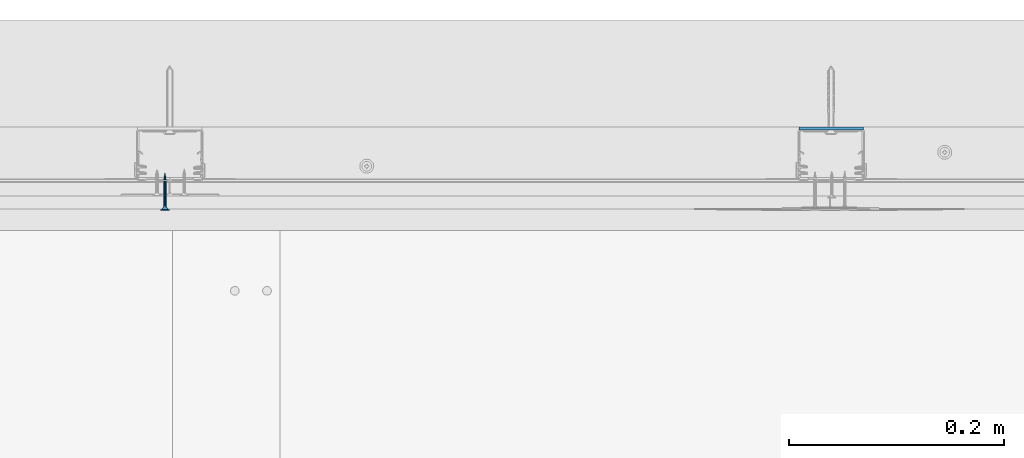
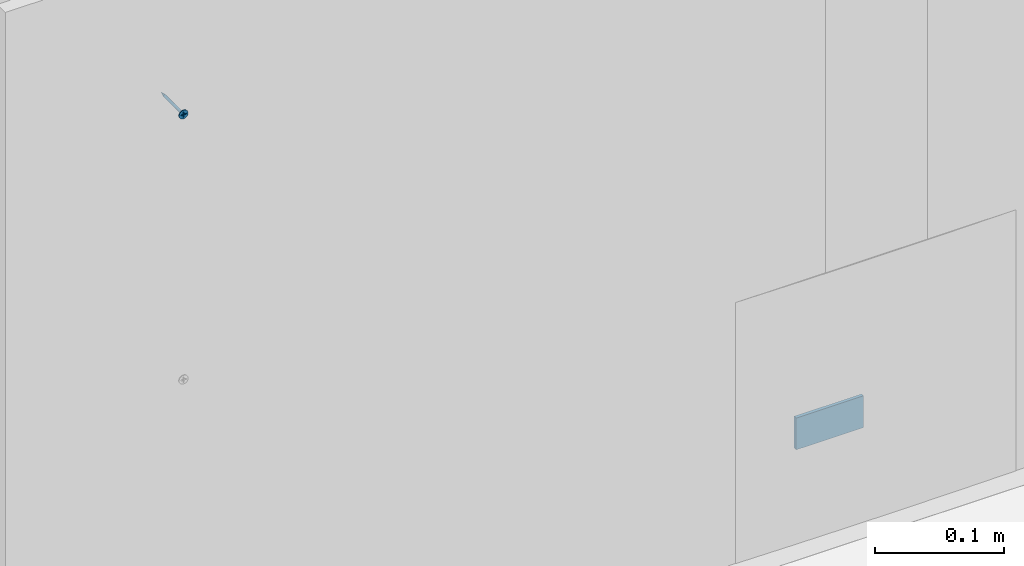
# One storey, part 35 of 47: 2 walls.
"""IFC2X3 building model written with IfcOpenShell, lengths in millimetres."""

import ifcopenshell
import ifcopenshell.guid

model = None  # the IFC model being written
_history = None  # IfcOwnerHistory: only IFC2X3 demands one
_inside = {}  # id of a spatial element -> (the spatial element, [elements in it])
_under = {}  # id of a project, library or spatial element -> (it, [spatial elements below it])
_declared = {}  # id of a project -> (the project, [libraries it declares])
_typed = {}  # id of a type object -> (the type object, [elements of that type])
_made_of = {}  # id of a material, layer set ... -> (it, [elements and type objects made of it])


def new_model(schema):
    """Start an empty IFC model of exactly this schema.

    Asked for "IFC4X3", IfcOpenShell would pick the latest addendum, in which some entities
    have other attributes; the version numbers below select the first issue.
    IFC2X3 requires an IfcOwnerHistory on every rooted entity: one is made here for all.
    """
    global model, _history
    if schema == "IFC4X3":
        model = ifcopenshell.file(schema_version=(4, 3, 0, 0))
    else:
        model = ifcopenshell.file(schema=schema)
    _inside.clear()
    _under.clear()
    _declared.clear()
    _typed.clear()
    _made_of.clear()
    _history = None
    if model.schema == "IFC2X3":
        org = make("IfcOrganization", Name="unknown")
        user = make(
            "IfcPersonAndOrganization",
            ThePerson=make("IfcPerson", FamilyName="unknown"),
            TheOrganization=org,
        )
        app = make(
            "IfcApplication",
            ApplicationDeveloper=org,
            Version="unknown",
            ApplicationFullName="unknown",
            ApplicationIdentifier="unknown",
        )
        _history = make(
            "IfcOwnerHistory",
            OwningUser=user,
            OwningApplication=app,
            ChangeAction="ADDED",
            CreationDate=0,
        )
    return model


def make(cls, **values):
    """One entity of the class cls with the attributes given. An attribute that is None is left unset."""
    return model.create_entity(
        cls, **{name: value for name, value in values.items() if value is not None}
    )


def entity(cls, *values):
    """Any entity or typed value of the class cls, its attributes in the order of the schema. None: left unset."""
    e = model.create_entity(cls)
    for i, value in enumerate(values):
        if value is not None:
            e[i] = value
    return e


def rooted(cls, **values):
    """An entity with a GlobalId (a new one), such as an element, a storey or a relation."""
    return make(cls, GlobalId=ifcopenshell.guid.new(), OwnerHistory=_history, **values)


def si_unit(unit_type, name, prefix=None):
    """IfcSIUnit, for example si_unit("LENGTHUNIT", "METRE", prefix="MILLI")."""
    return make("IfcSIUnit", UnitType=unit_type, Prefix=prefix, Name=name)


def converted_unit(unit_type, name, factor, base, dimensions=None, offset=None):
    """IfcConversionBasedUnit, such as the inch: factor (a typed value) times the base unit."""
    return make(
        "IfcConversionBasedUnit"
        if offset is None
        else "IfcConversionBasedUnitWithOffset",
        ConversionOffset=offset,
        Dimensions=None
        if dimensions is None
        else entity("IfcDimensionalExponents", *dimensions),
        UnitType=unit_type,
        Name=name,
        ConversionFactor=make(
            "IfcMeasureWithUnit", ValueComponent=factor, UnitComponent=base
        ),
    )


def assignment(units):
    """IfcUnitAssignment: the units of a project."""
    return None if units is None else make("IfcUnitAssignment", Units=units)


def point(xyz):
    """IfcCartesianPoint."""
    return None if xyz is None else make("IfcCartesianPoint", Coordinates=xyz)


def direction(xyz):
    """IfcDirection."""
    return None if xyz is None else make("IfcDirection", DirectionRatios=xyz)


def frame(location, z_axis=None, x_axis=None):
    """IfcAxis2Placement3D, a coordinate frame: its origin and axes. An axis left out is left unset."""
    return make(
        "IfcAxis2Placement3D",
        Location=point(location),
        Axis=direction(z_axis),
        RefDirection=direction(x_axis),
    )


def origin():
    """The frame at (0, 0, 0) with its axes left unset."""
    return frame((0.0, 0.0, 0.0))


def origin_with_axes():
    """The frame at (0, 0, 0) with the z axis (0, 0, 1) and the x axis (1, 0, 0) written out."""
    return frame((0.0, 0.0, 0.0), z_axis=(0.0, 0.0, 1.0), x_axis=(1.0, 0.0, 0.0))


def place(relative_to, where):
    """IfcLocalPlacement: puts the frame where relative to a parent placement (None: the world)."""
    return make(
        "IfcLocalPlacement", PlacementRelTo=relative_to, RelativePlacement=where
    )


def context(
    kind, dimensions, precision=None, world=None, true_north=None, identifier=None
):
    """IfcGeometricRepresentationContext, for example the 3D "Model" context."""
    return make(
        "IfcGeometricRepresentationContext",
        ContextIdentifier=identifier,
        ContextType=kind,
        CoordinateSpaceDimension=dimensions,
        Precision=precision,
        WorldCoordinateSystem=world,
        TrueNorth=true_north,
    )


def project(units=None, contexts=None):
    """IfcProject with its units and contexts."""
    return rooted(
        "IfcProject",
        Name="project",
        RepresentationContexts=contexts,
        UnitsInContext=assignment(units),
    )


def spatial(cls, under=None, at=None, **own):
    """A site, building, storey or space (cls), placed at a placement, below another one or the project."""
    s = rooted(cls, ObjectPlacement=at, **own)
    if under is not None:
        _under.setdefault(under.id(), (under, []))[1].append(s)
    return s


def faces_of(points, faces, orient=None, outer=None):
    """IfcFace entities. A face is a list of loops; a loop is a list of indices into points, from 0.

    orient and outer hold one flag for each loop. By default every Orientation is true, the
    first loop of a face is its IfcFaceOuterBound and the others are IfcFaceBound.
    """
    made = []
    for i, loops in enumerate(faces):
        bounds = []
        for j, loop in enumerate(loops):
            is_outer = j == 0 if outer is None else outer[i][j]
            bounds.append(
                make(
                    "IfcFaceOuterBound" if is_outer else "IfcFaceBound",
                    Bound=make("IfcPolyLoop", Polygon=[points[k] for k in loop]),
                    Orientation=True if orient is None else orient[i][j],
                )
            )
        made.append(make("IfcFace", Bounds=bounds))
    return made


def faceted_brep(points, faces, orient=None, outer=None, voids=None):
    """IfcFacetedBrep: a solid bounded by flat faces; with voids (closed shells), ...WithVoids."""
    shared = [point(p) for p in points]
    hull = make("IfcClosedShell", CfsFaces=faces_of(shared, faces, orient, outer))
    if voids is None:
        return make("IfcFacetedBrep", Outer=hull)
    return make(
        "IfcFacetedBrepWithVoids",
        Outer=hull,
        Voids=[
            make(cls, CfsFaces=faces_of(shared, fs, o, b)) for cls, fs, o, b in voids
        ],
    )


def shape(context_of_items, identifier, shape_type, items):
    """IfcShapeRepresentation: the items that make up one representation, for example the "Body"."""
    return make(
        "IfcShapeRepresentation",
        ContextOfItems=context_of_items,
        RepresentationIdentifier=identifier,
        RepresentationType=shape_type,
        Items=items,
    )


def made_of(thing, what):
    """Note that an element or type object is made of a material, layer set ...; save() writes the relation."""
    if what is not None:
        _made_of.setdefault(what.id(), (what, []))[1].append(thing)
    return thing


def element(
    cls,
    number,
    at=None,
    inside=None,
    cuts=None,
    type_object=None,
    material=None,
    context=None,
    identifier="Body",
    shape_type=None,
    held_by="IfcProductDefinitionShape",
    body=None,
    shapes=None,
    **own,
):
    """One element of the class cls, such as IfcWall. Its Tag is "e" and its number.

    at: its placement. inside: the storey or other place that contains it. cuts: it is an
    opening in that element (IfcRelVoidsElement). A single representation is given by context,
    identifier, shape_type and body (its items); several are given by shapes. held_by: the class
    of the entity that holds the representations. save() writes the other relations.
    """
    e = rooted(cls, Tag="e%d" % number, ObjectPlacement=at, **own)
    if body is not None:
        shapes = [shape(context, identifier, shape_type, body)]
    if shapes is not None:
        e.Representation = make(held_by, Representations=shapes)
    if inside is not None:
        _inside.setdefault(inside.id(), (inside, []))[1].append(e)
    if cuts is not None:
        rooted(
            "IfcRelVoidsElement", RelatingBuildingElement=cuts, RelatedOpeningElement=e
        )
    if type_object is not None:
        _typed.setdefault(type_object.id(), (type_object, []))[1].append(e)
    return made_of(e, material)


def aggregate(whole, parts):
    """IfcRelAggregates: a whole, such as a stair, and the parts it consists of."""
    return rooted("IfcRelAggregates", RelatingObject=whole, RelatedObjects=parts)


def save(model, path):
    """Write the relations noted so far, then the file.

    IfcRelAggregates (storeys below a building ...), IfcRelContainedInSpatialStructure (elements
    in a storey), IfcRelDefinesByType, IfcRelAssociatesMaterial and IfcRelDeclares: one each for
    every whole, place, type object, material and project.
    """
    for whole, parts in _under.values():
        aggregate(whole, parts)
    for where, things in _inside.values():
        rooted(
            "IfcRelContainedInSpatialStructure",
            RelatedElements=things,
            RelatingStructure=where,
        )
    for kind, things in _typed.values():
        rooted("IfcRelDefinesByType", RelatedObjects=things, RelatingType=kind)
    for what, things in _made_of.values():
        rooted("IfcRelAssociatesMaterial", RelatedObjects=things, RelatingMaterial=what)
    for by, libraries in _declared.values():
        rooted("IfcRelDeclares", RelatingContext=by, RelatedDefinitions=libraries)
    model.write(path)


model = new_model("IFC2X3")

# Units and contexts
model_context = context("Model", 3, precision=1e-05, world=origin(), true_north=direction((0.0, 1.0, 0.0)))
ifc_project = project(units=[si_unit("LENGTHUNIT", "METRE", prefix="MILLI"), si_unit("AREAUNIT", "SQUARE_METRE"), si_unit("VOLUMEUNIT", "CUBIC_METRE"), converted_unit("PLANEANGLEUNIT", "DEGREE", entity("IfcPlaneAngleMeasure", 0.01745), si_unit("PLANEANGLEUNIT", "RADIAN"), dimensions=[0, 0, 0, 0, 0, 0, 0]), si_unit("SOLIDANGLEUNIT", "STERADIAN"), si_unit("MASSUNIT", "GRAM"), si_unit("TIMEUNIT", "SECOND"), si_unit("THERMODYNAMICTEMPERATUREUNIT", "DEGREE_CELSIUS"), si_unit("LUMINOUSINTENSITYUNIT", "LUMEN")], contexts=[model_context])

# Site, building, storey
site_placement = place(None, origin_with_axes())
site = spatial("IfcSite", under=ifc_project, at=site_placement, Name="Default Site", CompositionType="ELEMENT")
building_placement = place(site_placement, origin_with_axes())
building = spatial("IfcBuilding", under=site, at=building_placement, Name="Default Building", CompositionType="ELEMENT")
storey_placement = place(building_placement, origin_with_axes())
storey = spatial("IfcBuildingStorey", under=building, at=storey_placement, Name="Default Building Storey", CompositionType="ELEMENT", Elevation=0.0)

# Walls
wall_1_placement = place(storey_placement, frame((2421.009952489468, 6778.439791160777, 103.0621105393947), z_axis=(0.0, 0.0, 1.0), x_axis=(1.0, 4.718447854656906e-16, 0.0)))
element("IfcWall", 1, at=wall_1_placement, inside=storey, Name="Wkręt RIGIPS TN 35", context=model_context, shape_type="Brep", body=[
    faceted_brep([(-141.5377463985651, -4832.598051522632, 555.8000000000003), (-141.5377463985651, -4833.259713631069, 555.8000000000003), (-141.4875329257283, -4833.259713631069, 555.1619773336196), (-141.4875329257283, -4832.598051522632, 555.1619773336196), (-141.3381289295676, -4833.259713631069, 554.5396649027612), (-141.3381289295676, -4832.598051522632, 554.5396649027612), (-141.0932132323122, -4833.259713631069, 553.9483861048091), (-141.0932132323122, -4832.598051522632, 553.9483861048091), (-140.7588164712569, -4833.259713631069, 553.4027001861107), (-140.7588164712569, -4832.598051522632, 553.4027001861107), (-140.3431726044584, -4833.259713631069, 552.9160437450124), (-140.4541727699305, -4832.598051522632, 553.0314907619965), (-140.1080097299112, -4832.598051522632, 552.6986614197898), (-139.8565161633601, -4833.259713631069, 552.5003998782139), (-139.7251262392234, -4832.598051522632, 552.4088262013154), (-139.3108302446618, -4833.259713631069, 552.1660031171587), (-139.3108302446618, -4832.598051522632, 552.1660031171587), (-138.8708651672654, -4832.598051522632, 551.9735584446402), (-138.7195514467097, -4833.259713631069, 551.9210874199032), (-138.4113302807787, -4832.598051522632, 551.8341600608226), (-137.9385961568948, -4832.598051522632, 551.7497404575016), (-138.0972390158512, -4833.259713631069, 551.7716834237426), (-137.4592163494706, -4833.259713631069, 551.7214699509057), (-137.4592163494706, -4832.598051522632, 551.7214699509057), (-136.8211936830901, -4833.259713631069, 551.7716834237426), (-136.8211936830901, -4832.598051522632, 551.7716834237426), (-136.1988812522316, -4833.259713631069, 551.9210874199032), (-136.1988812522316, -4832.598051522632, 551.9210874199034), (-135.6076024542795, -4833.259713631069, 552.1660031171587), (-135.6076024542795, -4832.598051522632, 552.1660031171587), (-135.0619165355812, -4833.259713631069, 552.5003998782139), (-135.0619165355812, -4832.598051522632, 552.5003998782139), (-134.5752600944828, -4833.259713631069, 552.9160437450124), (-134.5752600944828, -4832.598051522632, 552.9160437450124), (-134.1596162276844, -4833.259713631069, 553.4027001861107), (-134.1596162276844, -4832.598051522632, 553.4027001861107), (-133.8252194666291, -4833.259713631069, 553.9483861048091), (-133.8252194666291, -4832.598051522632, 553.9483861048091), (-133.5803037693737, -4833.259713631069, 554.5396649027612), (-133.5803037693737, -4832.598051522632, 554.5396649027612), (-133.430899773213, -4833.259713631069, 556.4380226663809), (-133.430899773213, -4832.598051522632, 556.4380226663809), (-133.3806863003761, -4832.598051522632, 555.8000000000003), (-133.3806863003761, -4833.259713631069, 555.8000000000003), (-133.430899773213, -4832.598051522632, 555.1619773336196), (-133.430899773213, -4833.259713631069, 555.1619773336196), (-133.5803037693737, -4833.259713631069, 557.0603350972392), (-133.5803037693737, -4832.598051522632, 557.0603350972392), (-133.8252194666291, -4833.259713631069, 557.6516138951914), (-133.8252194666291, -4832.598051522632, 557.6516138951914), (-134.1596162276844, -4833.259713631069, 558.1972998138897), (-134.1596162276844, -4832.598051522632, 558.1972998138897), (-134.5752600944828, -4833.259713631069, 558.683956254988), (-134.5752600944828, -4832.598051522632, 558.683956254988), (-135.0619165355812, -4833.259713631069, 559.0996001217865), (-135.0619165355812, -4832.598051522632, 559.0996001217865), (-135.6076024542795, -4833.259713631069, 559.4339968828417), (-135.6076024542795, -4832.598051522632, 559.4339968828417), (-136.1988812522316, -4833.259713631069, 559.6789125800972), (-136.1988812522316, -4832.598051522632, 559.6789125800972), (-136.8211936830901, -4833.259713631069, 559.8283165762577), (-136.8211936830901, -4832.598051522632, 559.8283165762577), (-137.4592163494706, -4833.259713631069, 559.8785300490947), (-137.4592163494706, -4832.598051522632, 559.8785300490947), (-138.0972390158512, -4833.259713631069, 559.8283165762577), (-138.0972390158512, -4832.598051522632, 559.8283165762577), (-138.7195514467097, -4833.259713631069, 559.6789125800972), (-138.7195514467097, -4832.598051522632, 559.6789125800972), (-139.3108302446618, -4833.259713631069, 559.4339968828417), (-139.3108302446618, -4832.598051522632, 559.4339968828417), (-139.8565161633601, -4833.259713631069, 559.0996001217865), (-139.8565161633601, -4832.598051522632, 559.0996001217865), (-140.3431726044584, -4833.259713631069, 558.683956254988), (-140.3431726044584, -4832.598051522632, 558.683956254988), (-140.7588164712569, -4833.259713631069, 558.1972998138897), (-140.7588164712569, -4832.598051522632, 558.1972998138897), (-141.0932132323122, -4833.259713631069, 557.6516138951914), (-141.0932132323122, -4832.598051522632, 557.6516138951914), (-141.3381289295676, -4833.259713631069, 557.0603350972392), (-141.3381289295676, -4832.598051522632, 557.0603350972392), (-141.4875329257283, -4833.259713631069, 556.4380226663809), (-141.4875329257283, -4832.598051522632, 556.4380226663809), (-137.8060615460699, -4829.281368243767, 554.5055560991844), (-137.4592163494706, -4828.206294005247, 554.5693795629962), (-137.651727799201, -4828.206294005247, 554.5845305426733), (-137.4592163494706, -4829.281368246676, 554.4598930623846), (-137.83949897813, -4828.206294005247, 554.6296104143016), (-138.1292698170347, -4829.281368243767, 554.639433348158), (-138.0179063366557, -4828.206294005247, 554.7035091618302), (-138.1825568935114, -4828.206294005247, 554.804407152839), (-138.4068150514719, -4829.281368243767, 554.8524012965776), (-138.329396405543, -4828.206294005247, 554.929819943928), (-138.6197830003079, -4829.281368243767, 555.1299465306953), (-138.4548091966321, -4828.206294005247, 555.0766594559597), (-138.5557071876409, -4828.206294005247, 555.2413100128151), (-138.7536602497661, -4829.281368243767, 555.4531548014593), (-138.6296059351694, -4828.206294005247, 555.4197173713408), (-138.6746858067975, -4828.206294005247, 555.60748855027), (-138.7993232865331, -4829.281368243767, 555.7999999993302), (-138.6898367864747, -4828.206294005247, 555.8000000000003), (-138.753660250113, -4829.281368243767, 556.1468451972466), (-138.6746858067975, -4828.206294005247, 555.9925114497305), (-138.6296059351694, -4828.206294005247, 556.1802826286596), (-138.6197830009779, -4829.281368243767, 556.4700534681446), (-138.5557071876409, -4828.206294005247, 556.3586899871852), (-138.4548091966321, -4828.206294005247, 556.5233405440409), (-138.4068150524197, -4829.281368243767, 556.7475987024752), (-138.329396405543, -4828.206294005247, 556.6701800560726), (-138.1292698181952, -4829.281368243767, 556.9605666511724), (-138.1825568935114, -4828.206294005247, 556.7955928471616), (-138.0179063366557, -4828.206294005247, 556.8964908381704), (-137.8060615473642, -4829.281368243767, 557.0944439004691), (-137.83949897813, -4828.206294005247, 556.9703895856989), (-137.651727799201, -4828.206294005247, 557.0154694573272), (-137.4592163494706, -4829.281368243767, 557.1401069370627), (-137.4592163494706, -4828.206294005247, 557.0306204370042), (-137.112371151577, -4829.281368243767, 557.0944439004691), (-137.2667048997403, -4828.206294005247, 557.0154694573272), (-137.0789337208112, -4828.206294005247, 556.9703895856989), (-136.7891628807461, -4829.281368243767, 556.9605666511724), (-136.9005263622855, -4828.206294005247, 556.8964908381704), (-136.7358758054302, -4828.206294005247, 556.7955928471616), (-136.5116176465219, -4829.281368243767, 556.7475987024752), (-136.5890362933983, -4828.206294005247, 556.6701800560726), (-136.2986496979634, -4829.281368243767, 556.4700534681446), (-136.4636235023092, -4828.206294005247, 556.5233405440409), (-136.3627255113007, -4828.206294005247, 556.3586899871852), (-136.1647724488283, -4829.281368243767, 556.1468451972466), (-136.2888267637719, -4828.206294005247, 556.1802826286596), (-136.2437468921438, -4828.206294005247, 555.9925114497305), (-136.1191094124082, -4829.281368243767, 555.7999999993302), (-136.2285959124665, -4828.206294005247, 555.8000000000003), (-136.1647724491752, -4829.281368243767, 555.4531548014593), (-136.2437468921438, -4828.206294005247, 555.60748855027), (-136.2888267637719, -4828.206294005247, 555.4197173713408), (-136.2986496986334, -4829.281368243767, 555.1299465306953), (-136.3627255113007, -4828.206294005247, 555.2413100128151), (-136.4636235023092, -4828.206294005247, 555.0766594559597), (-136.5116176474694, -4829.281368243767, 554.8524012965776), (-136.5890362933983, -4828.206294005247, 554.929819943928), (-136.7891628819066, -4829.281368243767, 554.639433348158), (-136.7358758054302, -4828.206294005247, 554.804407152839), (-136.9005263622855, -4828.206294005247, 554.7035091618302), (-137.1123711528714, -4829.281368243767, 554.5055560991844), (-137.0789337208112, -4828.206294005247, 554.6296104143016), (-137.2667048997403, -4828.206294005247, 554.5845305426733), (-137.4592163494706, -4830.288222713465, 554.1737111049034), (-137.8801308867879, -4830.288222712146, 554.229125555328), (-138.2723607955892, -4830.288222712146, 554.3915925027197), (-138.6091762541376, -4830.288222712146, 554.6500400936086), (-138.8676238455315, -4830.288222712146, 554.9868555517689), (-139.0300907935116, -4830.288222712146, 555.3790854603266), (-139.0855052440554, -4830.288222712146, 555.7999999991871), (-139.0300907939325, -4830.288222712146, 556.2209145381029), (-138.8676238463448, -4830.288222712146, 556.6131444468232), (-138.6091762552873, -4830.288222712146, 556.9499599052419), (-138.2723607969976, -4830.288222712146, 557.2084074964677), (-137.8801308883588, -4830.288222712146, 557.3708744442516), (-137.4592163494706, -4830.288222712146, 557.426288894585), (-137.0383018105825, -4830.288222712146, 557.3708744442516), (-136.6460719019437, -4830.288222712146, 557.2084074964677), (-136.309256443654, -4830.288222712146, 556.9499599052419), (-136.0508088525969, -4830.288222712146, 556.6131444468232), (-135.8883419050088, -4830.288222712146, 556.2209145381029), (-135.8329274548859, -4830.288222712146, 555.7999999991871), (-135.8883419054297, -4830.288222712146, 555.3790854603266), (-136.0508088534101, -4830.288222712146, 554.9868555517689), (-136.309256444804, -4830.288222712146, 554.6500400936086), (-136.6460719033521, -4830.288222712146, 554.3915925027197), (-137.0383018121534, -4830.288222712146, 554.229125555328), (-137.4592163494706, -4831.168773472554, 553.7273431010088), (-137.9956594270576, -4831.168773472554, 553.7979671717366), (-138.4955447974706, -4831.168773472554, 554.005026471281), (-138.9248060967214, -4831.168773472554, 554.3344102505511), (-139.2541898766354, -4831.168773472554, 554.7636715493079), (-139.4612491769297, -4831.168773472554, 555.2635569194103), (-139.5318732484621, -4831.168773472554, 555.7999999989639), (-139.461249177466, -4831.168773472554, 556.3364430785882), (-139.2541898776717, -4831.168773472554, 556.8363284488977), (-138.9248060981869, -4831.168773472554, 557.2655897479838), (-138.4955447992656, -4831.168773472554, 557.594973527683), (-137.9956594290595, -4831.168773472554, 557.8020328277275), (-137.4592163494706, -4831.168773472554, 557.8726568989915), (-136.9227732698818, -4831.168773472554, 557.8020328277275), (-136.4228878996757, -4831.168773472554, 557.594973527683), (-135.9936266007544, -4831.168773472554, 557.2655897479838), (-135.6642428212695, -4831.168773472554, 556.8363284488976), (-135.4571835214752, -4831.168773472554, 556.3364430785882), (-135.3865594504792, -4831.168773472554, 555.7999999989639), (-135.4571835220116, -4831.168773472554, 555.2635569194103), (-135.6642428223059, -4831.168773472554, 554.7636715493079), (-135.9936266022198, -4831.168773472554, 554.3344102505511), (-136.4228879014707, -4831.168773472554, 554.005026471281), (-136.9227732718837, -4831.168773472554, 553.7979671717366), (-137.4592163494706, -4831.872222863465, 553.1465393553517), (-138.1459824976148, -4831.872222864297, 553.2369538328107), (-138.7859466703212, -4831.872222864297, 553.5020356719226), (-139.3354963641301, -4831.872222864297, 553.9237199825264), (-139.7571806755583, -4831.872222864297, 554.4732696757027), (-140.02226251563, -4831.872222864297, 555.1132338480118), (-140.1126769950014, -4831.872222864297, 555.7999999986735), (-140.0222625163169, -4831.872222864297, 556.4867661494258), (-139.7571806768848, -4831.872222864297, 557.1267303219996), (-139.3354963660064, -4831.872222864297, 557.6762800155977), (-138.785946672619, -4831.872222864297, 558.0979643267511), (-138.1459825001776, -4831.872222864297, 558.3630461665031), (-137.4592163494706, -4831.872222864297, 558.4534606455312), (-136.7724501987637, -4831.872222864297, 558.3630461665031), (-136.1324860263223, -4831.872222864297, 558.0979643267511), (-135.5829363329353, -4831.872222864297, 557.6762800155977), (-135.1612520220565, -4831.872222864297, 557.1267303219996), (-134.8961701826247, -4831.872222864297, 556.4867661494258), (-134.8057557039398, -4831.872222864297, 555.7999999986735), (-134.8961701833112, -4831.872222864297, 555.1132338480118), (-135.161252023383, -4831.872222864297, 554.4732696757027), (-135.5829363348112, -4831.872222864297, 553.9237199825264), (-136.1324860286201, -4831.872222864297, 553.5020356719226), (-136.7724502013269, -4831.872222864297, 553.2369538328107), (-137.4592163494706, -4832.357989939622, 552.4648055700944), (-138.3224281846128, -4832.357989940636, 552.578449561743), (-139.1268135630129, -4832.357989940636, 552.9116368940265), (-139.8175549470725, -4832.357989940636, 553.4416613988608), (-140.3475794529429, -4832.357989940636, 554.1324027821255), (-140.6807667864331, -4832.357989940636, 554.9367881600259), (-140.7944107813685, -4832.357989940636, 555.7999999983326), (-140.6807667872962, -4832.357989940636, 556.6632118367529), (-140.3475794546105, -4832.357989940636, 557.4675972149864), (-139.817554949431, -4832.357989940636, 558.1583385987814), (-139.1268135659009, -4832.357989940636, 558.6883631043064), (-138.3224281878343, -4832.357989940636, 559.0215504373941), (-137.4592163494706, -4832.357989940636, 559.1351944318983), (-136.5960045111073, -4832.357989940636, 559.0215504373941), (-135.7916191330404, -4832.357989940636, 558.6883631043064), (-135.1008777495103, -4832.357989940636, 558.1583385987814), (-134.5708532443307, -4832.357989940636, 557.4675972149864), (-134.2376659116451, -4832.357989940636, 556.6632118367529), (-134.1240219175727, -4832.357989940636, 555.7999999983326), (-134.2376659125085, -4832.357989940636, 554.9367881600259), (-134.5708532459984, -4832.357989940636, 554.1324027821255), (-135.1008777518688, -4832.357989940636, 553.4416613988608), (-135.7916191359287, -4832.357989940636, 552.9116368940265), (-136.5960045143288, -4832.357989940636, 552.578449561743), (-138.6898367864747, -4804.093757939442, 555.8000000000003), (-138.6746858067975, -4804.093757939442, 555.60748855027), (-138.6296059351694, -4804.093757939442, 555.4197173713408), (-138.5557071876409, -4804.093757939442, 555.2413100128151), (-138.4548091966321, -4804.093757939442, 555.0766594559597), (-138.329396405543, -4804.093757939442, 554.929819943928), (-138.1825568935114, -4804.093757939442, 554.804407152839), (-138.0179063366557, -4804.093757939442, 554.7035091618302), (-137.83949897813, -4804.093757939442, 554.6296104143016), (-137.651727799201, -4804.093757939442, 554.5845305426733), (-137.4592163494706, -4804.093757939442, 554.5693795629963), (-137.2667048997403, -4804.093757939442, 554.5845305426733), (-137.0789337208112, -4804.093757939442, 554.6296104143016), (-136.9005263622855, -4804.093757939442, 554.7035091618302), (-136.7358758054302, -4804.093757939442, 554.804407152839), (-136.5890362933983, -4804.093757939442, 554.929819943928), (-136.4636235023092, -4804.093757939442, 555.0766594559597), (-136.3627255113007, -4804.093757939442, 555.2413100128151), (-136.2888267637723, -4804.093757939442, 555.4197173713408), (-136.2437468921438, -4804.093757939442, 555.9925114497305), (-136.2285959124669, -4804.093757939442, 555.8000000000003), (-136.2437468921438, -4804.093757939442, 555.60748855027), (-136.2888267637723, -4804.093757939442, 556.1802826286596), (-136.3627255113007, -4804.093757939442, 556.3586899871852), (-136.4636235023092, -4804.093757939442, 556.5233405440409), (-136.5890362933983, -4804.093757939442, 556.6701800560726), (-136.7358758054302, -4804.093757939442, 556.7955928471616), (-136.9005263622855, -4804.093757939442, 556.8964908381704), (-137.0789337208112, -4804.093757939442, 556.9703895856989), (-137.2667048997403, -4804.093757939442, 557.0154694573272), (-137.4592163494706, -4804.093757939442, 557.0306204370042), (-137.651727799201, -4804.093757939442, 557.0154694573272), (-137.83949897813, -4804.093757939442, 556.9703895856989), (-138.0179063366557, -4804.093757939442, 556.8964908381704), (-138.1825568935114, -4804.093757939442, 556.7955928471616), (-138.329396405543, -4804.093757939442, 556.6701800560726), (-138.4548091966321, -4804.093757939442, 556.5233405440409), (-138.5557071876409, -4804.093757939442, 556.3586899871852), (-138.6296059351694, -4804.093757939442, 556.1802826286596), (-138.6746858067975, -4804.093757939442, 555.9925114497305), (-137.4592163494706, -4797.627063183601, 555.8000000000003), (-139.9592163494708, -4833.259713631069, 556.3000000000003), (-137.9592163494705, -4833.259713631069, 556.3000000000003), (-139.9592163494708, -4833.259713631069, 555.3000000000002), (-137.9592163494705, -4833.259713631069, 555.3000000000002), (-137.9592163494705, -4833.259713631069, 553.3000000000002), (-136.9592163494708, -4833.259713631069, 553.3000000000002), (-136.9592163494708, -4833.259713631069, 555.3000000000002), (-134.9592163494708, -4833.259713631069, 555.3000000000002), (-134.9592163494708, -4833.259713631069, 556.3000000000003), (-136.9592163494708, -4833.259713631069, 556.3000000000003), (-136.9592163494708, -4833.259713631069, 558.3000000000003), (-137.9592163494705, -4833.259713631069, 558.3000000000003), (-136.9592163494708, -4831.988379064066, 556.3000000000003), (-134.9592163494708, -4831.988379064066, 556.3000000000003), (-134.9592163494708, -4831.988379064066, 555.3000000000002), (-136.9592163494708, -4831.988379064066, 555.3000000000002), (-136.9592163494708, -4831.988379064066, 553.3000000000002), (-137.9592163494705, -4831.988379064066, 553.3000000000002), (-137.9592163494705, -4831.988379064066, 555.3000000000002), (-139.9592163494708, -4831.988379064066, 555.3000000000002), (-139.9592163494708, -4831.988379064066, 556.3000000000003), (-137.9592163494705, -4831.988379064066, 556.3000000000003), (-137.9592163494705, -4831.988379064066, 558.3000000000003), (-136.9592163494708, -4831.988379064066, 558.3000000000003)], [[[0, 1, 2, 3]], [[4, 5, 3, 2]], [[6, 7, 5, 4]], [[7, 6, 8, 9]], [[8, 10, 9]], [[10, 11, 9]], [[12, 11, 13]], [[11, 10, 13]], [[13, 14, 12]], [[13, 15, 14]], [[15, 16, 14]], [[17, 16, 18]], [[16, 15, 18]], [[18, 19, 17]], [[20, 19, 21]], [[19, 18, 21]], [[21, 22, 20]], [[22, 23, 20]], [[23, 22, 24, 25]], [[26, 27, 25, 24]], [[28, 29, 27, 26]], [[29, 28, 30, 31]], [[32, 33, 31, 30]], [[33, 32, 34, 35]], [[36, 37, 35, 34]], [[38, 39, 37, 36]], [[40, 41, 42, 43]], [[43, 42, 44, 45]], [[39, 38, 45, 44]], [[46, 47, 41, 40]], [[48, 49, 47, 46]], [[49, 48, 50, 51]], [[52, 53, 51, 50]], [[53, 52, 54, 55]], [[56, 57, 55, 54]], [[58, 59, 57, 56]], [[59, 58, 60, 61]], [[62, 63, 61, 60]], [[63, 62, 64, 65]], [[66, 67, 65, 64]], [[68, 69, 67, 66]], [[69, 68, 70, 71]], [[72, 73, 71, 70]], [[73, 72, 74, 75]], [[76, 77, 75, 74]], [[78, 79, 77, 76]], [[79, 78, 80, 81]], [[1, 0, 81, 80]], [[82, 83, 84]], [[82, 85, 83]], [[84, 86, 82]], [[82, 86, 87]], [[88, 87, 86]], [[87, 88, 89]], [[89, 90, 87]], [[89, 91, 90]], [[92, 91, 93]], [[92, 90, 91]], [[93, 94, 92]], [[92, 94, 95]], [[96, 95, 94]], [[95, 96, 97]], [[97, 98, 95]], [[97, 99, 98]], [[100, 99, 101]], [[100, 98, 99]], [[101, 102, 100]], [[100, 102, 103]], [[104, 103, 102]], [[103, 104, 105]], [[105, 106, 103]], [[105, 107, 106]], [[108, 107, 109]], [[108, 106, 107]], [[109, 110, 108]], [[108, 110, 111]], [[112, 111, 110]], [[111, 112, 113]], [[113, 114, 111]], [[113, 115, 114]], [[116, 115, 117]], [[116, 114, 115]], [[117, 118, 116]], [[116, 118, 119]], [[120, 119, 118]], [[119, 120, 121]], [[121, 122, 119]], [[121, 123, 122]], [[124, 123, 125]], [[124, 122, 123]], [[125, 126, 124]], [[124, 126, 127]], [[128, 127, 126]], [[127, 128, 129]], [[129, 130, 127]], [[129, 131, 130]], [[132, 131, 133]], [[132, 130, 131]], [[133, 134, 132]], [[132, 134, 135]], [[136, 135, 134]], [[135, 136, 137]], [[137, 138, 135]], [[137, 139, 138]], [[140, 139, 141]], [[140, 138, 139]], [[141, 142, 140]], [[140, 142, 143]], [[144, 143, 142]], [[143, 144, 145]], [[145, 85, 143]], [[145, 83, 85]], [[146, 85, 147]], [[82, 147, 85]], [[87, 148, 147, 82]], [[90, 149, 148, 87]], [[92, 150, 149, 90]], [[95, 151, 150, 92]], [[98, 152, 151, 95]], [[100, 153, 152, 98]], [[103, 154, 153, 100]], [[106, 155, 154, 103]], [[108, 156, 155, 106]], [[111, 157, 156, 108]], [[114, 158, 157, 111]], [[116, 159, 158, 114]], [[119, 160, 159, 116]], [[122, 161, 160, 119]], [[124, 162, 161, 122]], [[127, 163, 162, 124]], [[130, 164, 163, 127]], [[132, 165, 164, 130]], [[135, 166, 165, 132]], [[138, 167, 166, 135]], [[140, 168, 167, 138]], [[143, 169, 168, 140]], [[143, 85, 169]], [[146, 169, 85]], [[170, 146, 171]], [[147, 171, 146]], [[148, 172, 171, 147]], [[149, 173, 172, 148]], [[150, 174, 173, 149]], [[151, 175, 174, 150]], [[152, 176, 175, 151]], [[153, 177, 176, 152]], [[154, 178, 177, 153]], [[155, 179, 178, 154]], [[156, 180, 179, 155]], [[157, 181, 180, 156]], [[158, 182, 181, 157]], [[159, 183, 182, 158]], [[160, 184, 183, 159]], [[161, 185, 184, 160]], [[162, 186, 185, 161]], [[163, 187, 186, 162]], [[164, 188, 187, 163]], [[165, 189, 188, 164]], [[166, 190, 189, 165]], [[167, 191, 190, 166]], [[168, 192, 191, 167]], [[169, 193, 192, 168]], [[169, 146, 193]], [[170, 193, 146]], [[194, 170, 195]], [[171, 195, 170]], [[172, 196, 195, 171]], [[173, 197, 196, 172]], [[174, 198, 197, 173]], [[175, 199, 198, 174]], [[176, 200, 199, 175]], [[177, 201, 200, 176]], [[178, 202, 201, 177]], [[179, 203, 202, 178]], [[180, 204, 203, 179]], [[181, 205, 204, 180]], [[182, 206, 205, 181]], [[183, 207, 206, 182]], [[184, 208, 207, 183]], [[185, 209, 208, 184]], [[186, 210, 209, 185]], [[187, 211, 210, 186]], [[188, 212, 211, 187]], [[189, 213, 212, 188]], [[190, 214, 213, 189]], [[191, 215, 214, 190]], [[192, 216, 215, 191]], [[193, 217, 216, 192]], [[193, 170, 217]], [[194, 217, 170]], [[218, 19, 20]], [[218, 219, 19]], [[20, 23, 218]], [[218, 194, 219]], [[195, 219, 194]], [[219, 16, 17]], [[219, 220, 16]], [[17, 19, 219]], [[196, 220, 219, 195]], [[221, 11, 12]], [[220, 12, 14]], [[220, 221, 12]], [[14, 16, 220]], [[197, 221, 220, 196]], [[222, 7, 9]], [[9, 221, 222]], [[9, 11, 221]], [[198, 222, 221, 197]], [[5, 7, 223]], [[222, 223, 7]], [[199, 223, 222, 198]], [[223, 0, 3]], [[223, 224, 0]], [[3, 5, 223]], [[200, 224, 223, 199]], [[225, 79, 81]], [[81, 224, 225]], [[81, 0, 224]], [[201, 225, 224, 200]], [[225, 226, 77, 79]], [[202, 226, 225, 201]], [[226, 73, 75]], [[226, 227, 73]], [[75, 77, 226]], [[203, 227, 226, 202]], [[228, 69, 71]], [[71, 227, 228]], [[71, 73, 227]], [[204, 228, 227, 203]], [[228, 229, 67, 69]], [[205, 229, 228, 204]], [[229, 63, 65]], [[229, 230, 63]], [[65, 67, 229]], [[206, 230, 229, 205]], [[231, 59, 61]], [[61, 230, 231]], [[61, 63, 230]], [[207, 231, 230, 206]], [[231, 232, 57, 59]], [[208, 232, 231, 207]], [[232, 53, 55]], [[232, 233, 53]], [[55, 57, 232]], [[209, 233, 232, 208]], [[234, 49, 51]], [[51, 233, 234]], [[51, 53, 233]], [[210, 234, 233, 209]], [[234, 235, 47, 49]], [[211, 235, 234, 210]], [[235, 42, 41]], [[235, 236, 42]], [[41, 47, 235]], [[212, 236, 235, 211]], [[237, 39, 44]], [[44, 236, 237]], [[44, 42, 236]], [[213, 237, 236, 212]], [[37, 39, 238]], [[237, 238, 39]], [[214, 238, 237, 213]], [[238, 33, 35]], [[238, 239, 33]], [[35, 37, 238]], [[215, 239, 238, 214]], [[240, 29, 31]], [[31, 239, 240]], [[31, 33, 239]], [[216, 240, 239, 215]], [[27, 29, 241]], [[240, 241, 29]], [[217, 241, 240, 216]], [[217, 194, 241]], [[218, 241, 194]], [[241, 23, 25]], [[241, 218, 23]], [[25, 27, 241]], [[242, 99, 97, 243]], [[96, 244, 243, 97]], [[94, 245, 244, 96]], [[245, 94, 93, 246]], [[91, 247, 246, 93]], [[247, 91, 89, 248]], [[88, 249, 248, 89]], [[86, 250, 249, 88]], [[250, 86, 84, 251]], [[83, 252, 251, 84]], [[252, 83, 145, 253]], [[144, 254, 253, 145]], [[142, 255, 254, 144]], [[255, 142, 141, 256]], [[139, 257, 256, 141]], [[257, 139, 137, 258]], [[136, 259, 258, 137]], [[134, 260, 259, 136]], [[129, 261, 262, 131]], [[131, 262, 263, 133]], [[260, 134, 133, 263]], [[128, 264, 261, 129]], [[126, 265, 264, 128]], [[265, 126, 125, 266]], [[123, 267, 266, 125]], [[267, 123, 121, 268]], [[120, 269, 268, 121]], [[118, 270, 269, 120]], [[270, 118, 117, 271]], [[115, 272, 271, 117]], [[272, 115, 113, 273]], [[112, 274, 273, 113]], [[110, 275, 274, 112]], [[275, 110, 109, 276]], [[107, 277, 276, 109]], [[277, 107, 105, 278]], [[104, 279, 278, 105]], [[102, 280, 279, 104]], [[280, 102, 101, 281]], [[99, 242, 281, 101]], [[243, 244, 282]], [[282, 242, 243]], [[244, 245, 282]], [[246, 247, 282]], [[282, 245, 246]], [[248, 249, 282]], [[282, 247, 248]], [[249, 250, 282]], [[251, 252, 282]], [[282, 250, 251]], [[253, 254, 282]], [[282, 252, 253]], [[254, 255, 282]], [[256, 257, 282]], [[282, 255, 256]], [[258, 259, 282]], [[282, 257, 258]], [[259, 260, 282]], [[263, 262, 282]], [[282, 260, 263]], [[261, 264, 282]], [[282, 262, 261]], [[264, 265, 282]], [[266, 267, 282]], [[282, 265, 266]], [[268, 269, 282]], [[282, 267, 268]], [[269, 270, 282]], [[271, 272, 282]], [[282, 270, 271]], [[273, 274, 282]], [[282, 272, 273]], [[274, 275, 282]], [[276, 277, 282]], [[282, 275, 276]], [[278, 279, 282]], [[282, 277, 278]], [[279, 280, 282]], [[281, 242, 282]], [[282, 280, 281]], [[283, 76, 74, 284]], [[283, 285, 286, 287, 288, 289, 290, 291, 292, 293, 294, 284, 74, 72, 70, 68, 66, 64, 62, 60, 58, 56, 54, 52, 50, 48, 46, 40, 43, 45, 38, 36, 34, 32, 30, 28, 26, 24, 22, 21, 18, 15, 13, 10, 8, 6, 4, 2, 1, 80, 78, 76]], [[295, 296, 297, 298, 299, 300, 301, 302, 303, 304, 305, 306]], [[297, 290, 289, 298]], [[296, 291, 290, 297]], [[295, 292, 291, 296]], [[306, 293, 292, 295]], [[305, 294, 293, 306]], [[304, 284, 294, 305]], [[303, 283, 284, 304]], [[302, 285, 283, 303]], [[301, 286, 285, 302]], [[300, 287, 286, 301]], [[299, 288, 287, 300]], [[298, 289, 288, 299]]]),
])
wall_2_placement = place(storey_placement, frame((2873.037086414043, 2019.778611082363, 120.9602480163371), z_axis=(0.0, 0.0, 1.0), x_axis=(1.0, 0.0, 0.0)))
element("IfcWall", 2, at=wall_2_placement, inside=storey, Name="Taśma uszczelniająca piankowa RIGIPS szer.30mm", context=model_context, shape_type="Brep", body=[
    faceted_brep([(59.99999999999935, 0.0, 4.511946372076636e-12), (0.0, 0.0, 0.0), (1.082867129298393e-12, -2.237925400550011e-11, -30.00000000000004), (60.00000000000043, -2.237925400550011e-11, -29.99999999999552), (0.0, 3.00000000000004, 0.0), (1.082867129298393e-12, 2.999999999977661, -30.00000000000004), (60.00000000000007, 3.00000000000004, 0.0), (60.00000000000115, 2.999999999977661, -30.00000000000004)], [[[0, 1, 2, 3]], [[1, 4, 5, 2]], [[4, 6, 7, 5]], [[6, 0, 3, 7]], [[7, 3, 2, 5]], [[0, 6, 4, 1]]]),
])

save(model, "model.ifc")
